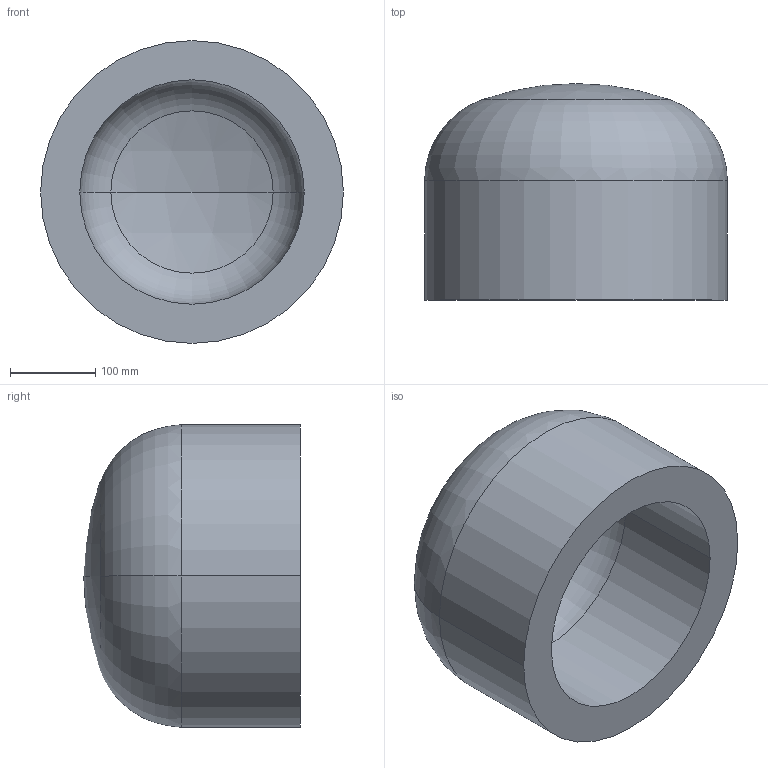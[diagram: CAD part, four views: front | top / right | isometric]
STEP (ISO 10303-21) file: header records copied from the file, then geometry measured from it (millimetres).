
FILE_DESCRIPTION (( 'STEP AP203' ), '1' );
FILE_NAME ('DIN 28013 Korbbogenform_-_Boden DIN 28013 - 355,6 x 140 - I - s=46.step', '2016-07-01T07:48:27', ( '' ), ( '' ), 'SwSTEP 2.0', 'SolidWorks 2013', '' );
FILE_SCHEMA (( 'CONFIG_CONTROL_DESIGN' ));
Length unit declared in the file: millimetre
Products named in the file (1): DIN 28013 Korbbogenform_-_Boden DIN 28013 - 355,6 x 140 - I - s=46
Bounding box: 355.6 x 254.26 x 355.6 mm (x, y, z)
Volume: 11676468.7 mm3; surface area: 556845.6 mm2
Topology: 1 solids, 1 shells, 13 faces, 24 edges, 14 vertices
Faces by surface type: torus 4, cylinder 4, sphere 4, plane 1
Entity records: 407 total; most frequent: DIRECTION 72, CARTESIAN_POINT 52, ORIENTED_EDGE 48, AXIS2_PLACEMENT_3D 34, EDGE_CURVE 24, CIRCLE 20, VERTEX_POINT 14, EDGE_LOOP 14
